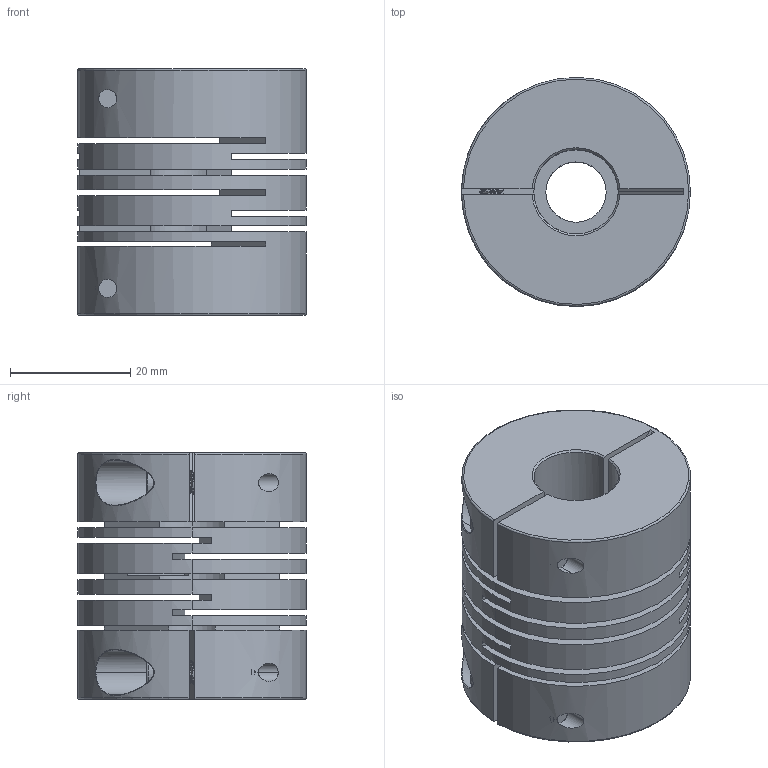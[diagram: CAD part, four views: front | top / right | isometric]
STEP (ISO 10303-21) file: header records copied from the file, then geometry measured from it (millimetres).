
FILE_DESCRIPTION (( 'STEP AP214' ), '1' );
FILE_NAME ('ﾌ PQX-D38L41-10x14.STEP', '2026-03-30T11:25:02', ( '' ), ( '' ), 'SwSTEP 2.0', 'SolidWorks 2022', '' );
FILE_SCHEMA (( 'AUTOMOTIVE_DESIGN' ));
Length unit declared in the file: millimetre
Products named in the file (3): Муфту PQX-D38L41-10x14; PQX-D38L41; Винт DIN912 (полуцилиндр) кл. пр. 8.8_М4х14
Assembly tree (3 placements, depth 2):
  Муфту PQX-D38L41-10x14
    PQX-D38L41
    Винт DIN912 (полуцилиндр) кл. пр. 8.8_М4х14  x2
Bounding box: 38 x 38 x 41 mm (x, y, z)
Volume: 35233.2 mm3; surface area: 20431.9 mm2
Topology: 3 solids, 3 shells, 232 faces, 673 edges, 438 vertices
Faces by surface type: cylinder 112, plane 81, cone 15, bspline 12, torus 12
Entity records: 16232 total; most frequent: CARTESIAN_POINT 11909, ORIENTED_EDGE 964, DIRECTION 833, EDGE_CURVE 482, VERTEX_POINT 317, AXIS2_PLACEMENT_3D 316, VECTOR 201, LINE 201
